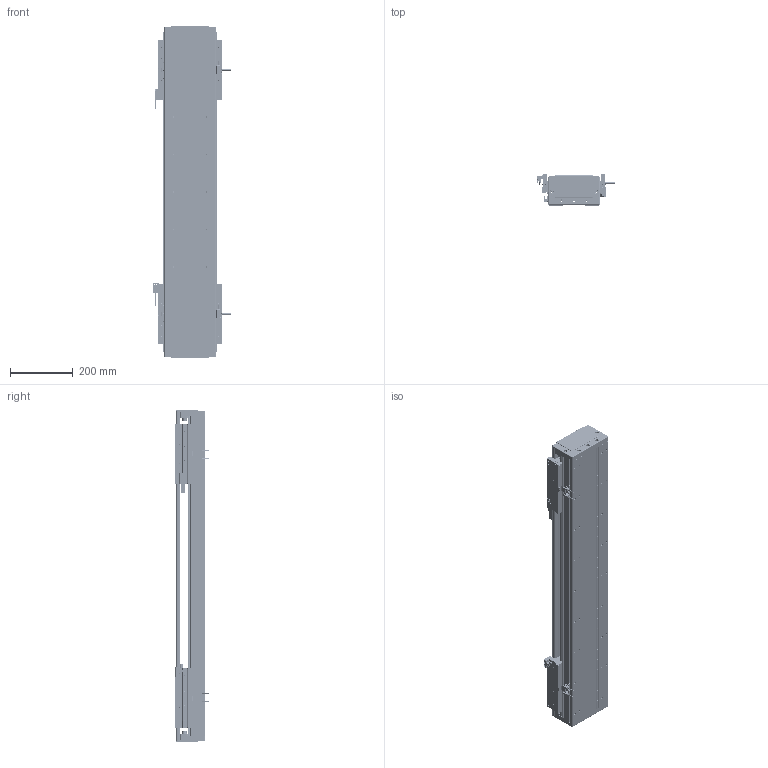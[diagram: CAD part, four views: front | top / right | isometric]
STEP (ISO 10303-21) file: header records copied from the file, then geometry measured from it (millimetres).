
FILE_DESCRIPTION (( 'STEP AP203' ), '1' );
FILE_NAME ('DA-C165-2-C2-T560-C010-0.2 直线电机.STEP', '2023-05-11T08:16:47', ( '微软用户' ), ( '微软中国' ), 'SwSTEP 2.0', 'SolidWorks 2019', '' );
FILE_SCHEMA (( 'CONFIG_CONTROL_DESIGN' ));
Length unit declared in the file: millimetre
Products named in the file (19): DA-C165-2-C2-T560-C010-0.2 眻盄萇儂; IU-CU165-L-00 菁釱_L1020; 复件 XD-U-02L 磁栅尺^DA-C165-C2-T-C010-0.2-N 直线电机_T; 复件 六角薄螺母 M3^DA-C165-C2-T-C010-0.2-N 直线电机_GB_FASTENER_NUT_STNAB M3-C; 复件 DA95-HXJ-00 缓冲橡胶^DA-C165-C2-T-C010-0.2-N 直线电机; 葩璃 PM-T45^DA-C165-C2-T-C010-0.2-N 眻盄萇儂; 复件 DA165-T-002-00 盖板^DA-C165-C2-T-C010-0.2-N 直线电机_0840-002-00; 葩璃 PM-Y45^DA-C165-C2-T-C010-0.2-N 眻盄萇儂; 复件 DA165-GYP-00 光电感应片^DA-C165-C2-T-C010-0.2-N 直线电机; 复件 DA165-DG-H-N-00 端盖^DA-C165-C2-T-C010-0.2-N 直线电机; 葩璃 DA95-GT-T-00^IU-CU165-L 菁釱絳寢_T; 复件 DKW-HXJ-JY-00 缓冲橡胶^DA-C165-C2-T-C010-0.2-N 直线电机; 复件 CKM02-W075-C1C2-TP-3.0 一体电机-C2^DA-C165-C2-T-C010-0.2-N 直线电机; 复件 DMA-010-0.2 读数头^DA-C165-C2-T-C010-0.2-N 直线电机; 复件 DA126-GYP-ZJ-00 中间光电感应片^DA-C165-C2-T-C010-0.2-N 直线电机; 珨极趙賑雄怢啣wf-C2; 复件 66338-1000-006-00 光电感应块^DA-C165-C2-T-C010-0.2-N 直线电机; 葩璃 CKM01-W075-TRL^DA-C165-C2-T-C010-0.2-N 眻盄萇儂; IU-CU165-L 菁釱絳寢
Assembly tree (38 placements, depth 3):
  DA-C165-2-C2-T560-C010-0.2 眻盄萇儂
    IU-CU165-L 菁釱絳寢
      IU-CU165-L-00 菁釱_L1020
      葩璃 DA95-GT-T-00^IU-CU165-L 菁釱絳寢_T  x4
    复件 DA165-DG-H-N-00 端盖^DA-C165-C2-T-C010-0.2-N 直线电机  x2
    复件 DA95-HXJ-00 缓冲橡胶^DA-C165-C2-T-C010-0.2-N 直线电机  x4
    复件 DA165-T-002-00 盖板^DA-C165-C2-T-C010-0.2-N 直线电机_0840-002-00
    复件 XD-U-02L 磁栅尺^DA-C165-C2-T-C010-0.2-N 直线电机_T
    葩璃 PM-T45^DA-C165-C2-T-C010-0.2-N 眻盄萇儂  x4
    葩璃 CKM01-W075-TRL^DA-C165-C2-T-C010-0.2-N 眻盄萇儂
    复件 CKM02-W075-C1C2-TP-3.0 一体电机-C2^DA-C165-C2-T-C010-0.2-N 直线电机  x2
    复件 DMA-010-0.2 读数头^DA-C165-C2-T-C010-0.2-N 直线电机  x2
    复件 DA165-GYP-00 光电感应片^DA-C165-C2-T-C010-0.2-N 直线电机  x2
    复件 66338-1000-006-00 光电感应块^DA-C165-C2-T-C010-0.2-N 直线电机
    葩璃 PM-Y45^DA-C165-C2-T-C010-0.2-N 眻盄萇儂
    复件 DA126-GYP-ZJ-00 中间光电感应片^DA-C165-C2-T-C010-0.2-N 直线电机
    复件 DKW-HXJ-JY-00 缓冲橡胶^DA-C165-C2-T-C010-0.2-N 直线电机  x2
    复件 六角薄螺母 M3^DA-C165-C2-T-C010-0.2-N 直线电机_GB_FASTENER_NUT_STNAB M3-C  x6
    珨极趙賑雄怢啣wf-C2  x2
Bounding box: 247.2 x 111.45 x 1060 mm (x, y, z)
Volume: 9355722.5 mm3; surface area: 2414983.3 mm2
Topology: 115 solids, 115 shells, 4852 faces, 12937 edges, 8048 vertices
Faces by surface type: cylinder 2310, plane 1766, cone 680, torus 88, sphere 8
Entity records: 97912 total; most frequent: CARTESIAN_POINT 22520, DIRECTION 15419, ORIENTED_EDGE 15120, EDGE_CURVE 7560, AXIS2_PLACEMENT_3D 5740, VERTEX_POINT 4885, VECTOR 3939, LINE 3939
